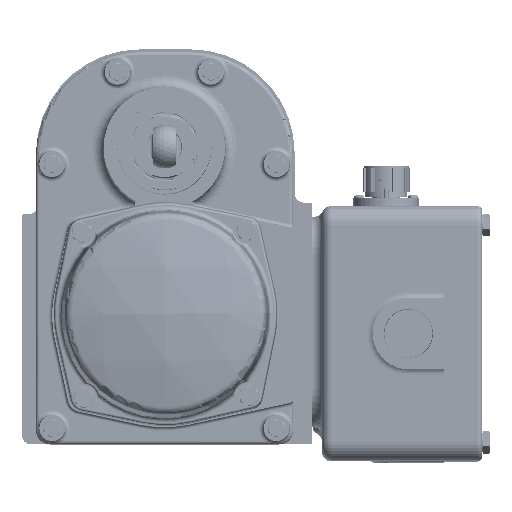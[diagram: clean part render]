
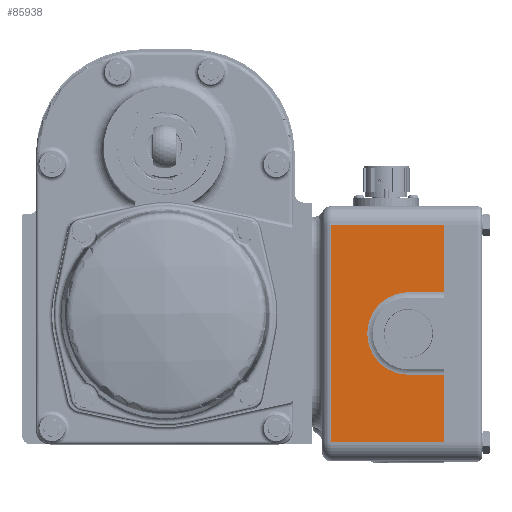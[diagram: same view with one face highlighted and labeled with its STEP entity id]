
A CAD part, top view. The second image highlights one B-rep face of the part: STEP entity #85938.
In plain terms, the highlighted planar face has unit normal (0, 0, 1).
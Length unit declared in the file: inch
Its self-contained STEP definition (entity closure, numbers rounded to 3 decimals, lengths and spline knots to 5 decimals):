
#10549 = AXIS2_PLACEMENT_3D ( 'NONE', #187581, #187583, #187585 ) ;
#29614 = ORIENTED_EDGE ( 'NONE', *, *, #32482, .T. ) ;
#29616 = ORIENTED_EDGE ( 'NONE', *, *, #32485, .T. ) ;
#29617 = ORIENTED_EDGE ( 'NONE', *, *, #32490, .T. ) ;
#29619 = ORIENTED_EDGE ( 'NONE', *, *, #32493, .T. ) ;
#29621 = ORIENTED_EDGE ( 'NONE', *, *, #32498, .T. ) ;
#29623 = ORIENTED_EDGE ( 'NONE', *, *, #32502, .T. ) ;
#29625 = ORIENTED_EDGE ( 'NONE', *, *, #32505, .T. ) ;
#29627 = ORIENTED_EDGE ( 'NONE', *, *, #32509, .T. ) ;
#32482 = EDGE_CURVE ( 'NONE', #201988, #199166, #111775, .T. ) ;
#32485 = EDGE_CURVE ( 'NONE', #199166, #199078, #111779, .T. ) ;
#32490 = EDGE_CURVE ( 'NONE', #199078, #199179, #111783, .T. ) ;
#32493 = EDGE_CURVE ( 'NONE', #199179, #199090, #111791, .T. ) ;
#32498 = EDGE_CURVE ( 'NONE', #199090, #200923, #111789, .T. ) ;
#32502 = EDGE_CURVE ( 'NONE', #200923, #199382, #111796, .T. ) ;
#32505 = EDGE_CURVE ( 'NONE', #199382, #199082, #111800, .T. ) ;
#32509 = EDGE_CURVE ( 'NONE', #199082, #201988, #111804, .T. ) ;
#77849 = CARTESIAN_POINT ( 'NONE',  ( 8.21625, 1.3595, 6.4635 ) ) ;
#79667 = CARTESIAN_POINT ( 'NONE',  ( 8.21625, -0.44695, 6.4635 ) ) ;
#81174 = CARTESIAN_POINT ( 'NONE',  ( 5.21625, -4.4505, 6.4635 ) ) ;
#85938 = ADVANCED_FACE ( 'NONE', ( #135125 ), #187580, .T. ) ;
#107501 = EDGE_LOOP ( 'NONE', ( #29614, #29616, #29617, #29619, #29621, #29623, #29625, #29627 ) ) ;
#111775 = LINE ( 'NONE', #149748, #111777 ) ;
#111777 = VECTOR ( 'NONE', #149784, 39.37008 ) ;
#111779 = LINE ( 'NONE', #149406, #111781 ) ;
#111781 = VECTOR ( 'NONE', #149408, 39.37008 ) ;
#111783 = LINE ( 'NONE', #150127, #111786 ) ;
#111786 = VECTOR ( 'NONE', #150150, 39.37008 ) ;
#111789 = LINE ( 'NONE', #149212, #111793 ) ;
#111791 = CIRCLE ( 'NONE', #156414, 1.10355 ) ;
#111793 = VECTOR ( 'NONE', #149206, 39.37008 ) ;
#111796 = LINE ( 'NONE', #149198, #111798 ) ;
#111798 = VECTOR ( 'NONE', #149201, 39.37008 ) ;
#111800 = LINE ( 'NONE', #150272, #111802 ) ;
#111802 = VECTOR ( 'NONE', #150348, 39.37008 ) ;
#111804 = LINE ( 'NONE', #149209, #111807 ) ;
#111807 = VECTOR ( 'NONE', #150286, 39.37008 ) ;
#127862 = CARTESIAN_POINT ( 'NONE',  ( 8.21625, -2.65405, 6.4635 ) ) ;
#127866 = CARTESIAN_POINT ( 'NONE',  ( 5.21625, 1.3595, 6.4635 ) ) ;
#127874 = CARTESIAN_POINT ( 'NONE',  ( 7.27875, -0.44695, 6.4635 ) ) ;
#127950 = CARTESIAN_POINT ( 'NONE',  ( 8.21625, -4.4505, 6.4635 ) ) ;
#127961 = CARTESIAN_POINT ( 'NONE',  ( 7.27875, -2.65405, 6.4635 ) ) ;
#135125 = FACE_OUTER_BOUND ( 'NONE', #107501, .T. ) ;
#149190 = DIRECTION ( 'NONE',  ( 1., 0., 0. ) ) ;
#149192 = CARTESIAN_POINT ( 'NONE',  ( 7.27875, -1.5505, 6.4635 ) ) ;
#149195 = DIRECTION ( 'NONE',  ( 0., 0., -1. ) ) ;
#149198 = CARTESIAN_POINT ( 'NONE',  ( 8.21625, 1.3595, 6.4635 ) ) ;
#149201 = DIRECTION ( 'NONE',  ( 0., 1., 0. ) ) ;
#149206 = DIRECTION ( 'NONE',  ( 1., 0., 0. ) ) ;
#149209 = CARTESIAN_POINT ( 'NONE',  ( 5.21625, -4.9505, 6.4635 ) ) ;
#149212 = CARTESIAN_POINT ( 'NONE',  ( 8.34125, -0.44695, 6.4635 ) ) ;
#149406 = CARTESIAN_POINT ( 'NONE',  ( 8.21625, -2.65405, 6.4635 ) ) ;
#149408 = DIRECTION ( 'NONE',  ( 0., 1., 0. ) ) ;
#149748 = CARTESIAN_POINT ( 'NONE',  ( 4.96625, -4.4505, 6.4635 ) ) ;
#149784 = DIRECTION ( 'NONE',  ( 1., 0., 0. ) ) ;
#150127 = CARTESIAN_POINT ( 'NONE',  ( 7.27875, -2.65405, 6.4635 ) ) ;
#150150 = DIRECTION ( 'NONE',  ( -1., 0., 0. ) ) ;
#150272 = CARTESIAN_POINT ( 'NONE',  ( 4.96625, 1.3595, 6.4635 ) ) ;
#150286 = DIRECTION ( 'NONE',  ( 0., -1., 0. ) ) ;
#150348 = DIRECTION ( 'NONE',  ( -1., 0., 0. ) ) ;
#156414 = AXIS2_PLACEMENT_3D ( 'NONE', #149192, #149195, #149190 ) ;
#187580 = PLANE ( 'NONE',  #10549 ) ;
#187581 = CARTESIAN_POINT ( 'NONE',  ( 4.96625, -4.9505, 6.4635 ) ) ;
#187583 = DIRECTION ( 'NONE',  ( 0., 0., 1. ) ) ;
#187585 = DIRECTION ( 'NONE',  ( 1., 0., 0. ) ) ;
#199078 = VERTEX_POINT ( 'NONE', #127862 ) ;
#199082 = VERTEX_POINT ( 'NONE', #127866 ) ;
#199090 = VERTEX_POINT ( 'NONE', #127874 ) ;
#199166 = VERTEX_POINT ( 'NONE', #127950 ) ;
#199179 = VERTEX_POINT ( 'NONE', #127961 ) ;
#199382 = VERTEX_POINT ( 'NONE', #77849 ) ;
#200923 = VERTEX_POINT ( 'NONE', #79667 ) ;
#201988 = VERTEX_POINT ( 'NONE', #81174 ) ;
